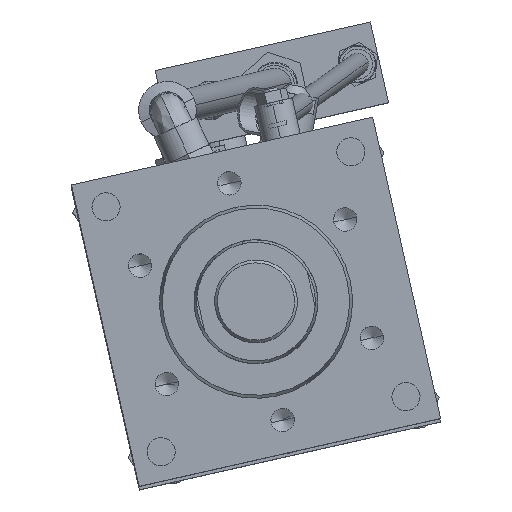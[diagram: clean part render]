
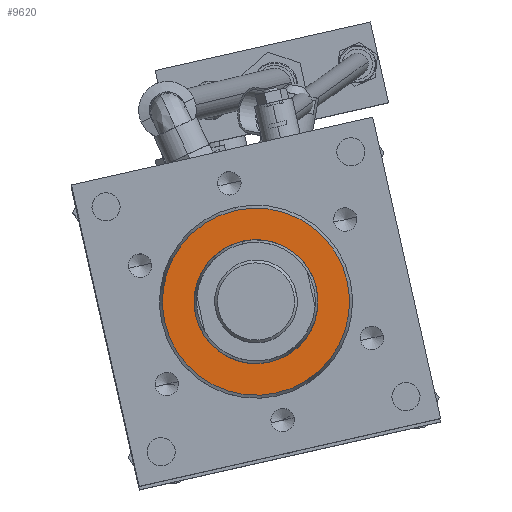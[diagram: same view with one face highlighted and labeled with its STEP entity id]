
A CAD part, top view. The second image highlights one B-rep face of the part: STEP entity #9620.
In plain terms, the highlighted planar face has unit normal (0, 0, 1).
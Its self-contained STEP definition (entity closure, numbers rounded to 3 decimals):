
#816 = VERTEX_POINT ( 'NONE', #13509 ) ;
#885 = DIRECTION ( 'NONE',  ( 0.22, -0.976, 0. ) ) ;
#923 = FACE_BOUND ( 'NONE', #13439, .T. ) ;
#1500 = DIRECTION ( 'NONE',  ( 0.22, -0.976, 0. ) ) ;
#2296 = CARTESIAN_POINT ( 'NONE',  ( -109.711, 492.321, -595.576 ) ) ;
#2764 = CARTESIAN_POINT ( 'NONE',  ( -109.711, 492.321, -595.576 ) ) ;
#3368 = ORIENTED_EDGE ( 'NONE', *, *, #15457, .F. ) ;
#3411 = ORIENTED_EDGE ( 'NONE', *, *, #17721, .T. ) ;
#5893 = DIRECTION ( 'NONE',  ( 0., 0., 1. ) ) ;
#6380 = DIRECTION ( 'NONE',  ( 0., 0., 1. ) ) ;
#6684 = DIRECTION ( 'NONE',  ( 0., 0., 1. ) ) ;
#7103 = CARTESIAN_POINT ( 'NONE',  ( -391.125, 1742.536, -595.576 ) ) ;
#9000 = DIRECTION ( 'NONE',  ( 0., 0., -1. ) ) ;
#9407 = CARTESIAN_POINT ( 'NONE',  ( -109.711, 492.321, -595.576 ) ) ;
#9620 = ADVANCED_FACE ( 'NONE', ( #923, #15280 ), #13392, .F. ) ;
#10265 = CARTESIAN_POINT ( 'NONE',  ( -114.652, 514.271, -595.576 ) ) ;
#11318 = CIRCLE ( 'NONE', #14348, 22.5 ) ;
#11680 = EDGE_CURVE ( 'NONE', #16393, #816, #20013, .T. ) ;
#12419 = EDGE_LOOP ( 'NONE', ( #3411, #21524 ) ) ;
#12720 = EDGE_CURVE ( 'NONE', #16580, #20167, #18871, .T. ) ;
#13104 = DIRECTION ( 'NONE',  ( 0.22, -0.976, 0. ) ) ;
#13106 = CARTESIAN_POINT ( 'NONE',  ( -117.162, 525.421, -595.576 ) ) ;
#13392 = PLANE ( 'NONE',  #14865 ) ;
#13439 = EDGE_LOOP ( 'NONE', ( #3368, #18004 ) ) ;
#13509 = CARTESIAN_POINT ( 'NONE',  ( -104.77, 470.37, -595.576 ) ) ;
#14190 = DIRECTION ( 'NONE',  ( 0., 0., 1. ) ) ;
#14348 = AXIS2_PLACEMENT_3D ( 'NONE', #19802, #14190, #1500 ) ;
#14865 = AXIS2_PLACEMENT_3D ( 'NONE', #7103, #9000, #19354 ) ;
#15280 = FACE_OUTER_BOUND ( 'NONE', #12419, .T. ) ;
#15457 = EDGE_CURVE ( 'NONE', #816, #16393, #11318, .T. ) ;
#15814 = CIRCLE ( 'NONE', #19913, 33.928 ) ;
#16393 = VERTEX_POINT ( 'NONE', #10265 ) ;
#16580 = VERTEX_POINT ( 'NONE', #17710 ) ;
#17710 = CARTESIAN_POINT ( 'NONE',  ( -102.261, 459.221, -595.576 ) ) ;
#17721 = EDGE_CURVE ( 'NONE', #20167, #16580, #15814, .T. ) ;
#18004 = ORIENTED_EDGE ( 'NONE', *, *, #11680, .F. ) ;
#18871 = CIRCLE ( 'NONE', #21848, 33.928 ) ;
#19354 = DIRECTION ( 'NONE',  ( -0.22, 0.976, 0. ) ) ;
#19802 = CARTESIAN_POINT ( 'NONE',  ( -109.711, 492.321, -595.576 ) ) ;
#19913 = AXIS2_PLACEMENT_3D ( 'NONE', #2764, #6380, #885 ) ;
#20013 = CIRCLE ( 'NONE', #21531, 22.5 ) ;
#20167 = VERTEX_POINT ( 'NONE', #13106 ) ;
#21524 = ORIENTED_EDGE ( 'NONE', *, *, #12720, .T. ) ;
#21531 = AXIS2_PLACEMENT_3D ( 'NONE', #2296, #5893, #13104 ) ;
#21848 = AXIS2_PLACEMENT_3D ( 'NONE', #9407, #6684, #22300 ) ;
#22300 = DIRECTION ( 'NONE',  ( 0.22, -0.976, 0. ) ) ;
